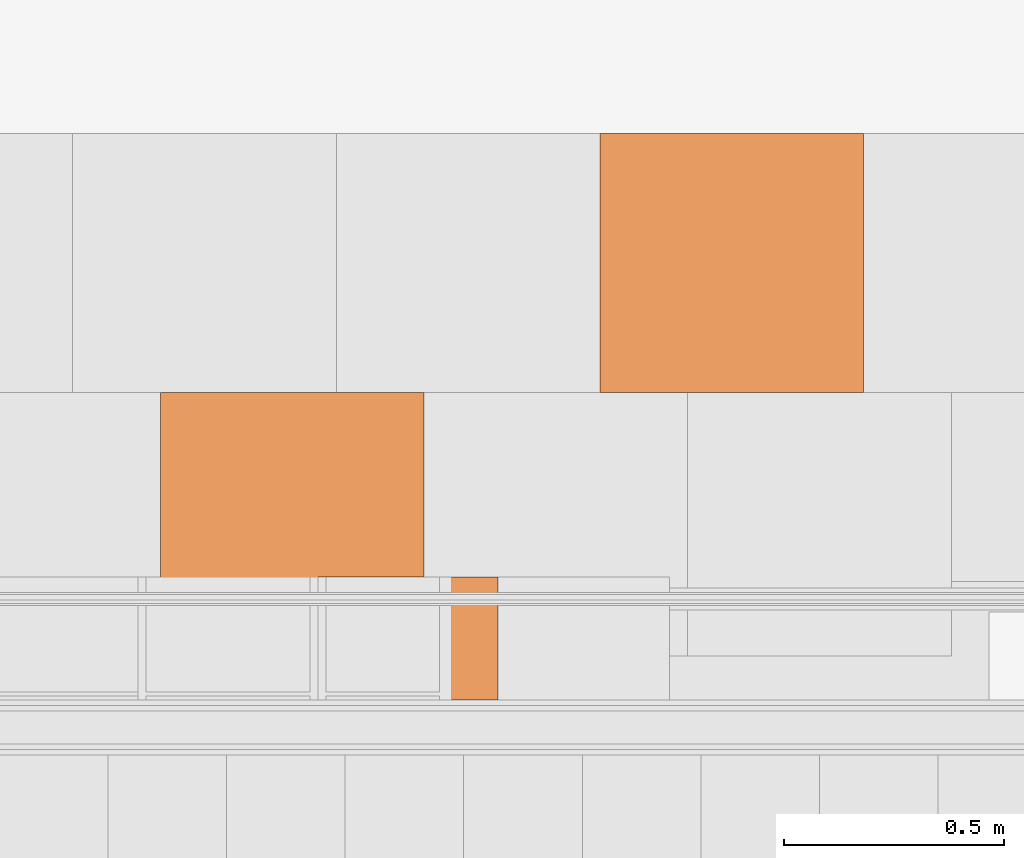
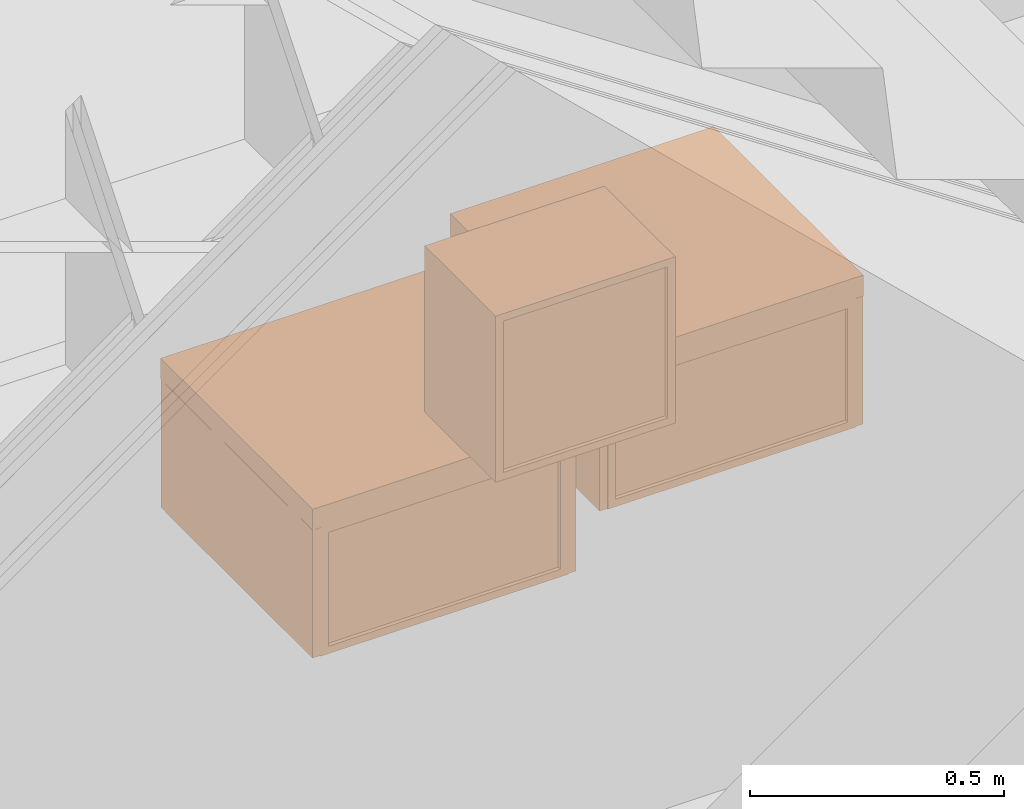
# One storey, part 140 of 165: 3 proxies.
"""IFC2X3 building model written with IfcOpenShell, lengths in millimetres."""

from ifc_helpers import new_model, entity, si_unit, converted_unit, derived_unit, money_unit, direction, frame, origin_with_axes, place, context, subcontext, project, spatial, faceted_brep, source, transform, mapped, type_object, type_shapes, element, save


model = new_model("IFC2X3")

# Units and contexts
model_context = context("Model", 3, precision=0.01, world=origin_with_axes(), true_north=direction((0.0, 1.0)))
body_context = subcontext(model_context, "Body", "Model", "MODEL_VIEW")
ifc_project = project(units=[si_unit("LENGTHUNIT", "METRE", prefix="MILLI"), si_unit("AREAUNIT", "SQUARE_METRE"), si_unit("VOLUMEUNIT", "CUBIC_METRE"), converted_unit("PLANEANGLEUNIT", "DEGREE", entity("IfcPlaneAngleMeasure", 0.0174532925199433), si_unit("PLANEANGLEUNIT", "RADIAN"), dimensions=[0, 0, 0, 0, 0, 0, 0]), money_unit("EUR"), converted_unit("TIMEUNIT", "Year", entity("IfcTimeMeasure", 31556926.0), si_unit("TIMEUNIT", "SECOND"), dimensions=[0, 0, 1, 0, 0, 0, 0]), si_unit("MASSUNIT", "GRAM", prefix="KILO"), si_unit("THERMODYNAMICTEMPERATUREUNIT", "DEGREE_CELSIUS"), si_unit("LUMINOUSINTENSITYUNIT", "LUMEN"), si_unit("ENERGYUNIT", "JOULE", prefix="MEGA"), derived_unit("THERMALCONDUCTANCEUNIT", [(si_unit("POWERUNIT", "WATT"), 1), (si_unit("LENGTHUNIT", "METRE"), -1), (si_unit("THERMODYNAMICTEMPERATUREUNIT", "KELVIN"), -1)]), derived_unit("SPECIFICHEATCAPACITYUNIT", [(si_unit("ENERGYUNIT", "JOULE"), 1), (si_unit("MASSUNIT", "GRAM", prefix="KILO"), -1), (si_unit("THERMODYNAMICTEMPERATUREUNIT", "KELVIN"), -1)]), derived_unit("MASSDENSITYUNIT", [(si_unit("MASSUNIT", "GRAM", prefix="KILO"), 1), (si_unit("VOLUMEUNIT", "CUBIC_METRE"), -1)])], contexts=[model_context])

# Site, building, storey
site_placement = place(None, origin_with_axes())
site = spatial("IfcSite", under=ifc_project, at=site_placement, Name="Site", CompositionType="ELEMENT")
building_placement = place(site_placement, origin_with_axes())
building = spatial("IfcBuilding", under=site, at=building_placement, Name="Naam gebouw", CompositionType="ELEMENT")
storey_placement = place(building_placement, origin_with_axes())
storey = spatial("IfcBuildingStorey", under=building, at=storey_placement, Name="Begane grond", CompositionType="ELEMENT", Elevation=0.0)

# Proxies
building_element_proxy_type = type_object("IfcBuildingElementProxyType", Name="Onderkast recht 26", PredefinedType="NOTDEFINED")
shared_shape_1 = source(origin_with_axes(), body_context, "Body", "Brep", [
    faceted_brep([(0.0, -590.0, 310.0), (0.0, -590.0, 360.0), (-600.0, -590.0, 360.0), (-600.0, -590.0, 310.0), (0.0, 0.0, 310.0), (0.0, 0.0, 360.0), (-600.0, 0.0, 360.0), (-600.0, 0.0, 310.0)], [[[0, 1, 2, 3]], [[4, 5, 1, 0]], [[1, 5, 6, 2]], [[3, 2, 6, 7]], [[0, 3, 7, 4]], [[7, 6, 5, 4]]]),
    faceted_brep([(-558.9999999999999, -572.0, 23.0), (-558.9999999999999, -18.00000000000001, 23.0), (-40.99999999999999, -18.00000000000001, 23.0), (-40.99999999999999, -572.0, 23.0), (-558.9999999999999, -572.0, 33.0), (-558.9999999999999, -18.00000000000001, 33.0), (-40.99999999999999, -18.00000000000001, 33.0), (-40.99999999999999, -572.0, 33.0)], [[[0, 1, 2, 3]], [[0, 4, 5, 1]], [[1, 5, 6, 2]], [[2, 6, 7, 3]], [[3, 7, 4, 0]], [[7, 6, 5, 4]]]),
    faceted_brep([(-61.0, -572.0, 33.0), (-61.0, -18.00000000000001, 33.0), (-40.99999999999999, -18.00000000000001, 33.0), (-40.99999999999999, -572.0, 33.0), (-61.0, -572.0, 286.9999999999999), (-61.0, -18.00000000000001, 286.9999999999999), (-40.99999999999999, -18.00000000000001, 286.9999999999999), (-40.99999999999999, -572.0, 286.9999999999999)], [[[0, 1, 2, 3]], [[0, 4, 5, 1]], [[1, 5, 6, 2]], [[2, 6, 7, 3]], [[3, 7, 4, 0]], [[7, 6, 5, 4]]]),
    faceted_brep([(-558.9999999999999, -572.0, 33.0), (-558.9999999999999, -18.00000000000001, 33.0), (-538.9999999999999, -18.00000000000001, 33.0), (-538.9999999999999, -572.0, 33.0), (-558.9999999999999, -572.0, 286.9999999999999), (-558.9999999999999, -18.00000000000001, 286.9999999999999), (-538.9999999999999, -18.00000000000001, 286.9999999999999), (-538.9999999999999, -572.0, 286.9999999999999)], [[[0, 1, 2, 3]], [[0, 4, 5, 1]], [[1, 5, 6, 2]], [[2, 6, 7, 3]], [[3, 7, 4, 0]], [[7, 6, 5, 4]]]),
    faceted_brep([(-538.9999999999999, -33.00000000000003, 33.0), (-538.9999999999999, -23.00000000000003, 33.0), (-61.0, -23.00000000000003, 33.0), (-61.0, -33.00000000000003, 33.0), (-538.9999999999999, -33.00000000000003, 286.9999999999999), (-538.9999999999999, -23.00000000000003, 286.9999999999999), (-61.0, -23.00000000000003, 286.9999999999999), (-61.0, -33.00000000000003, 286.9999999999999)], [[[0, 1, 2, 3]], [[0, 4, 5, 1]], [[1, 5, 6, 2]], [[2, 6, 7, 3]], [[3, 7, 4, 0]], [[7, 6, 5, 4]]]),
    faceted_brep([(-599.0, -590.0, 1.000000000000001), (-1.000000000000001, -590.0, 1.000000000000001), (-1.000000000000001, -590.0, 309.0), (-599.0, -590.0, 309.0), (-328.190778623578, -590.0, 240.26060429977), (-325.9807621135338, -590.0, 244.9999999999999), (-322.9813332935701, -590.0, 249.2836282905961), (-319.2836282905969, -590.0, 252.9813332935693), (-315.0000000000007, -590.0, 255.9807621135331), (-310.2606042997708, -590.0, 258.1907786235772), (-305.2094453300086, -590.0, 259.5442325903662), (-300.0000000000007, -590.0, 260.0), (-294.7905546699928, -590.0, 259.5442325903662), (-289.7393957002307, -590.0, 258.1907786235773), (-285.0000000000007, -590.0, 255.9807621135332), (-280.7163717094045, -590.0, 252.9813332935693), (-277.0186667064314, -590.0, 249.2836282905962), (-274.0192378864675, -590.0, 245.0), (-271.8092213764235, -590.0, 240.2606042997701), (-270.4557674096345, -590.0, 235.2094453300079), (-270.0000000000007, -590.0, 230.0), (-270.4557674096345, -590.0, 224.7905546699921), (-271.8092213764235, -590.0, 219.7393957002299), (-274.0192378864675, -590.0, 215.0), (-277.0186667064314, -590.0, 210.7163717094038), (-280.7163717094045, -590.0, 207.0186667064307), (-285.0000000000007, -590.0, 204.0192378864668), (-289.7393957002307, -590.0, 201.8092213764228), (-294.7905546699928, -590.0, 200.4557674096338), (-300.0000000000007, -590.0, 200.0), (-305.2094453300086, -590.0, 200.4557674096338), (-310.2606042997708, -590.0, 201.8092213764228), (-315.0000000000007, -590.0, 204.0192378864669), (-319.2836282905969, -590.0, 207.0186667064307), (-322.9813332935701, -590.0, 210.7163717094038), (-325.9807621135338, -590.0, 215.0), (-328.190778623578, -590.0, 219.7393957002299), (-329.5442325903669, -590.0, 224.7905546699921), (-330.0000000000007, -590.0, 230.0), (-329.5442325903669, -590.0, 235.2094453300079), (-599.0, -572.0, 1.000000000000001), (-1.000000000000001, -572.0, 1.000000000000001), (-1.000000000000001, -572.0, 309.0), (-599.0, -572.0, 309.0), (-325.9807621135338, -572.0, 244.9999999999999), (-328.190778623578, -572.0, 240.26060429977), (-322.9813332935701, -572.0, 249.2836282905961), (-319.2836282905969, -572.0, 252.9813332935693), (-315.0000000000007, -572.0, 255.9807621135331), (-310.2606042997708, -572.0, 258.1907786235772), (-305.2094453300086, -572.0, 259.5442325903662), (-300.0000000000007, -572.0, 260.0), (-294.7905546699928, -572.0, 259.5442325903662), (-289.7393957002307, -572.0, 258.1907786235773), (-285.0000000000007, -572.0, 255.9807621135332), (-280.7163717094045, -572.0, 252.9813332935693), (-277.0186667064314, -572.0, 249.2836282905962), (-274.0192378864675, -572.0, 245.0), (-271.8092213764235, -572.0, 240.2606042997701), (-270.4557674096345, -572.0, 235.2094453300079), (-270.0000000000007, -572.0, 230.0), (-270.4557674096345, -572.0, 224.7905546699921), (-271.8092213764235, -572.0, 219.7393957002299), (-274.0192378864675, -572.0, 215.0), (-277.0186667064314, -572.0, 210.7163717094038), (-280.7163717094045, -572.0, 207.0186667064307), (-285.0000000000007, -572.0, 204.0192378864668), (-289.7393957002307, -572.0, 201.8092213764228), (-294.7905546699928, -572.0, 200.4557674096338), (-300.0000000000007, -572.0, 200.0), (-305.2094453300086, -572.0, 200.4557674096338), (-310.2606042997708, -572.0, 201.8092213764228), (-315.0000000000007, -572.0, 204.0192378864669), (-319.2836282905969, -572.0, 207.0186667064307), (-322.9813332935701, -572.0, 210.7163717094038), (-325.9807621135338, -572.0, 215.0), (-328.190778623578, -572.0, 219.7393957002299), (-329.5442325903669, -572.0, 224.7905546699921), (-330.0000000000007, -572.0, 230.0), (-329.5442325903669, -572.0, 235.2094453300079)], [[[0, 1, 2, 3], [4, 5, 6, 7, 8, 9, 10, 11, 12, 13, 14, 15, 16, 17, 18, 19, 20, 21, 22, 23, 24, 25, 26, 27, 28, 29, 30, 31, 32, 33, 34, 35, 36, 37, 38, 39]], [[40, 41, 1, 0]], [[41, 42, 2, 1]], [[42, 43, 3, 2]], [[43, 40, 0, 3]], [[44, 5, 4, 45]], [[46, 6, 5, 44]], [[47, 7, 6, 46]], [[48, 8, 7, 47]], [[49, 9, 8, 48]], [[50, 10, 9, 49]], [[51, 11, 10, 50]], [[52, 12, 11, 51]], [[53, 13, 12, 52]], [[54, 14, 13, 53]], [[55, 15, 14, 54]], [[56, 16, 15, 55]], [[57, 17, 16, 56]], [[58, 18, 17, 57]], [[59, 19, 18, 58]], [[60, 20, 19, 59]], [[61, 21, 20, 60]], [[62, 22, 21, 61]], [[63, 23, 22, 62]], [[64, 24, 23, 63]], [[65, 25, 24, 64]], [[66, 26, 25, 65]], [[67, 27, 26, 66]], [[68, 28, 27, 67]], [[69, 29, 28, 68]], [[70, 30, 29, 69]], [[71, 31, 30, 70]], [[72, 32, 31, 71]], [[73, 33, 32, 72]], [[74, 34, 33, 73]], [[75, 35, 34, 74]], [[76, 36, 35, 75]], [[77, 37, 36, 76]], [[78, 38, 37, 77]], [[79, 39, 38, 78]], [[45, 4, 39, 79]], [[42, 41, 40, 43], [76, 75, 74, 73, 72, 71, 70, 69, 68, 67, 66, 65, 64, 63, 62, 61, 60, 59, 58, 57, 56, 55, 54, 53, 52, 51, 50, 49, 48, 47, 46, 44, 45, 79, 78, 77]]]),
    faceted_brep([(-18.0, -1.0, 1.0), (0.0, -1.0, 1.000000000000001), (0.0, -571.0, 1.000000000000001), (-18.0, -571.0, 1.0), (-18.00000000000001, -1.0, 309.0), (0.0, -1.0, 309.0), (0.0, -571.0, 309.0), (-18.00000000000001, -571.0, 309.0)], [[[0, 1, 2, 3]], [[4, 5, 1, 0]], [[1, 5, 6, 2]], [[3, 2, 6, 7]], [[0, 3, 7, 4]], [[7, 6, 5, 4]]]),
    faceted_brep([(-582.0, -571.0, 1.0), (-600.0, -571.0, 1.000000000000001), (-600.0, -1.000000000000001, 1.000000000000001), (-582.0, -1.000000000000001, 1.0), (-582.0, -571.0, 309.0), (-600.0, -571.0, 309.0), (-600.0, -1.000000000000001, 309.0), (-582.0, -1.000000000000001, 309.0)], [[[0, 1, 2, 3]], [[4, 5, 1, 0]], [[1, 5, 6, 2]], [[3, 2, 6, 7]], [[0, 3, 7, 4]], [[7, 6, 5, 4]]]),
    faceted_brep([(-36.0, -572.0, 0.0), (-36.0, -572.0, 18.0), (-564.0, -572.0, 18.0), (-564.0, -572.0, 0.0), (-36.0, 0.0, 0.0), (-36.0, 0.0, 18.0), (-564.0, 0.0, 18.0), (-564.0, 0.0, 0.0)], [[[0, 1, 2, 3]], [[4, 5, 1, 0]], [[1, 5, 6, 2]], [[3, 2, 6, 7]], [[0, 3, 7, 4]], [[7, 6, 5, 4]]]),
    faceted_brep([(-36.0, -572.0, 292.0), (-564.0, -572.0, 292.0), (-564.0, -512.0, 292.0), (-36.0, -512.0, 292.0), (-36.0, -572.0, 310.0), (-564.0, -572.0, 310.0), (-564.0, -512.0, 310.0), (-36.0, -512.0, 310.0)], [[[0, 1, 2, 3]], [[4, 5, 1, 0]], [[1, 5, 6, 2]], [[3, 2, 6, 7]], [[0, 3, 7, 4]], [[7, 6, 5, 4]]]),
    faceted_brep([(-564.0, 0.0, 292.0), (-36.0, 0.0, 292.0), (-36.0, -60.0, 292.0), (-564.0, -60.0, 292.0), (-564.0, 0.0, 310.0), (-36.0, 0.0, 310.0), (-36.0, -60.0, 310.0), (-564.0, -60.0, 310.0)], [[[0, 1, 2, 3]], [[4, 5, 1, 0]], [[1, 5, 6, 2]], [[3, 2, 6, 7]], [[0, 3, 7, 4]], [[7, 6, 5, 4]]]),
    faceted_brep([(-18.0, 0.0, 0.0), (-18.0, 0.0, 310.0), (-18.0, -572.0, 310.0), (-18.0, -572.0, 0.0), (-36.0, 0.0, 0.0), (-36.0, 0.0, 310.0), (-36.0, -572.0, 310.0), (-36.0, -572.0, 0.0)], [[[0, 1, 2, 3]], [[4, 5, 1, 0]], [[1, 5, 6, 2]], [[3, 2, 6, 7]], [[0, 3, 7, 4]], [[7, 6, 5, 4]]]),
    faceted_brep([(-582.0, -572.0, 0.0), (-582.0, -572.0, 310.0), (-582.0, 0.0, 310.0), (-582.0, 0.0, 0.0), (-564.0, -572.0, 0.0), (-564.0, -572.0, 310.0), (-564.0, 0.0, 310.0), (-564.0, 0.0, 0.0)], [[[0, 1, 2, 3]], [[4, 5, 1, 0]], [[1, 5, 6, 2]], [[3, 2, 6, 7]], [[0, 3, 7, 4]], [[7, 6, 5, 4]]]),
    faceted_brep([(-564.0, -9.0, 18.0), (-564.0, -9.0, 292.0000000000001), (-36.00000000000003, -9.0, 292.0000000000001), (-36.00000000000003, -9.0, 18.0), (-564.0, -18.0, 18.0), (-564.0, -18.0, 292.0000000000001), (-36.00000000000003, -18.0, 292.0000000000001), (-36.00000000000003, -18.0, 18.0)], [[[0, 1, 2, 3]], [[4, 5, 1, 0]], [[1, 5, 6, 2]], [[3, 2, 6, 7]], [[0, 3, 7, 4]], [[7, 6, 5, 4]]]),
])
proxy_1_placement = place(storey_placement, frame((16400.00001687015, 6430.000292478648, 0.0), z_axis=(0.0, 0.0, 1.0), x_axis=(-1.0, 0.0, 0.0)))
element("IfcBuildingElementProxy", 1, at=proxy_1_placement, inside=storey, type_object=building_element_proxy_type, Name="_Leeg", context=body_context, shape_type="MappedRepresentation", body=[
    mapped(shared_shape_1, transform((0.0, 0.0, 0.0))),
])
shared_shape_2 = source(origin_with_axes(), body_context, "Body", "Brep", [
    faceted_brep([(0.0, -600.0, 310.0), (600.0, -600.0, 310.0), (600.0, -600.0, 360.0), (0.0, -600.0, 360.0), (0.0, 0.0, 310.0), (600.0, 0.0, 310.0), (600.0, 0.0, 360.0), (0.0, 0.0, 360.0)], [[[0, 1, 2, 3]], [[0, 4, 5, 1]], [[1, 5, 6, 2]], [[3, 2, 6, 7]], [[4, 0, 3, 7]], [[5, 4, 7, 6]]]),
    faceted_brep([(558.9999999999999, -582.0, 23.0), (40.99999999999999, -582.0, 23.0), (40.99999999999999, -18.00000000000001, 23.0), (558.9999999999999, -18.00000000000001, 23.0), (558.9999999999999, -582.0, 33.0), (40.99999999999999, -582.0, 33.0), (40.99999999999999, -18.00000000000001, 33.0), (558.9999999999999, -18.00000000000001, 33.0)], [[[0, 1, 2, 3]], [[1, 0, 4, 5]], [[2, 1, 5, 6]], [[3, 2, 6, 7]], [[0, 3, 7, 4]], [[5, 4, 7, 6]]]),
    faceted_brep([(61.0, -582.0, 33.0), (40.99999999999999, -582.0, 33.0), (40.99999999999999, -18.00000000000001, 33.0), (61.0, -18.00000000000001, 33.0), (61.0, -582.0, 286.9999999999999), (40.99999999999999, -582.0, 286.9999999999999), (40.99999999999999, -18.00000000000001, 286.9999999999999), (61.0, -18.00000000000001, 286.9999999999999)], [[[0, 1, 2, 3]], [[1, 0, 4, 5]], [[2, 1, 5, 6]], [[3, 2, 6, 7]], [[0, 3, 7, 4]], [[5, 4, 7, 6]]]),
    faceted_brep([(558.9999999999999, -582.0, 33.0), (538.9999999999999, -582.0, 33.0), (538.9999999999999, -18.00000000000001, 33.0), (558.9999999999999, -18.00000000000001, 33.0), (558.9999999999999, -582.0, 286.9999999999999), (538.9999999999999, -582.0, 286.9999999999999), (538.9999999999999, -18.00000000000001, 286.9999999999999), (558.9999999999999, -18.00000000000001, 286.9999999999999)], [[[0, 1, 2, 3]], [[1, 0, 4, 5]], [[2, 1, 5, 6]], [[3, 2, 6, 7]], [[0, 3, 7, 4]], [[5, 4, 7, 6]]]),
    faceted_brep([(538.9999999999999, -33.00000000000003, 33.0), (61.0, -33.00000000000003, 33.0), (61.0, -23.00000000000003, 33.0), (538.9999999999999, -23.00000000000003, 33.0), (538.9999999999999, -33.00000000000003, 286.9999999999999), (61.0, -33.00000000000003, 286.9999999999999), (61.0, -23.00000000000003, 286.9999999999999), (538.9999999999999, -23.00000000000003, 286.9999999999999)], [[[0, 1, 2, 3]], [[1, 0, 4, 5]], [[2, 1, 5, 6]], [[3, 2, 6, 7]], [[0, 3, 7, 4]], [[5, 4, 7, 6]]]),
    faceted_brep([(599.0, -600.0, 1.000000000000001), (599.0, -600.0, 309.0), (1.000000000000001, -600.0, 309.0), (1.000000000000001, -600.0, 1.000000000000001), (328.1907786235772, -600.0, 240.26060429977), (329.5442325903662, -600.0, 235.2094453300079), (329.9999999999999, -600.0, 230.0), (329.5442325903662, -600.0, 224.7905546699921), (328.1907786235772, -600.0, 219.7393957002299), (325.9807621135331, -600.0, 215.0), (322.9813332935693, -600.0, 210.7163717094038), (319.2836282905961, -600.0, 207.0186667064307), (314.9999999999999, -600.0, 204.0192378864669), (310.26060429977, -600.0, 201.8092213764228), (305.2094453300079, -600.0, 200.4557674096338), (300.0, -600.0, 200.0), (294.7905546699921, -600.0, 200.4557674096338), (289.7393957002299, -600.0, 201.8092213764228), (285.0, -600.0, 204.0192378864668), (280.7163717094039, -600.0, 207.0186667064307), (277.0186667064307, -600.0, 210.7163717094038), (274.0192378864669, -600.0, 215.0), (271.8092213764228, -600.0, 219.7393957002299), (270.4557674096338, -600.0, 224.7905546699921), (270.0, -600.0, 230.0), (270.4557674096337, -600.0, 235.2094453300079), (271.8092213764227, -600.0, 240.2606042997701), (274.0192378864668, -600.0, 245.0), (277.0186667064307, -600.0, 249.2836282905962), (280.7163717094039, -600.0, 252.9813332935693), (285.0, -600.0, 255.9807621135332), (289.7393957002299, -600.0, 258.1907786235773), (294.7905546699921, -600.0, 259.5442325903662), (300.0, -600.0, 260.0), (305.2094453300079, -600.0, 259.5442325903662), (310.26060429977, -600.0, 258.1907786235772), (314.9999999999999, -600.0, 255.9807621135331), (319.2836282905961, -600.0, 252.9813332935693), (322.9813332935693, -600.0, 249.2836282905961), (325.9807621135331, -600.0, 244.9999999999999), (599.0, -582.0, 309.0), (599.0, -582.0, 1.000000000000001), (1.000000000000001, -582.0, 309.0), (1.000000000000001, -582.0, 1.000000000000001), (328.1907786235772, -582.0, 240.26060429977), (329.5442325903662, -582.0, 235.2094453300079), (329.9999999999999, -582.0, 230.0), (329.5442325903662, -582.0, 224.7905546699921), (328.1907786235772, -582.0, 219.7393957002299), (325.9807621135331, -582.0, 215.0), (322.9813332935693, -582.0, 210.7163717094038), (319.2836282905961, -582.0, 207.0186667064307), (314.9999999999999, -582.0, 204.0192378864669), (310.26060429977, -582.0, 201.8092213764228), (305.2094453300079, -582.0, 200.4557674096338), (300.0, -582.0, 200.0), (294.7905546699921, -582.0, 200.4557674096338), (289.7393957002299, -582.0, 201.8092213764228), (285.0, -582.0, 204.0192378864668), (280.7163717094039, -582.0, 207.0186667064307), (277.0186667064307, -582.0, 210.7163717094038), (274.0192378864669, -582.0, 215.0), (271.8092213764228, -582.0, 219.7393957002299), (270.4557674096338, -582.0, 224.7905546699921), (270.0, -582.0, 230.0), (270.4557674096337, -582.0, 235.2094453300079), (271.8092213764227, -582.0, 240.2606042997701), (274.0192378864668, -582.0, 245.0), (277.0186667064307, -582.0, 249.2836282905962), (280.7163717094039, -582.0, 252.9813332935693), (285.0, -582.0, 255.9807621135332), (289.7393957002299, -582.0, 258.1907786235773), (294.7905546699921, -582.0, 259.5442325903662), (300.0, -582.0, 260.0), (305.2094453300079, -582.0, 259.5442325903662), (310.26060429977, -582.0, 258.1907786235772), (314.9999999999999, -582.0, 255.9807621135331), (319.2836282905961, -582.0, 252.9813332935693), (322.9813332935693, -582.0, 249.2836282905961), (325.9807621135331, -582.0, 244.9999999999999)], [[[0, 1, 2, 3], [4, 5, 6, 7, 8, 9, 10, 11, 12, 13, 14, 15, 16, 17, 18, 19, 20, 21, 22, 23, 24, 25, 26, 27, 28, 29, 30, 31, 32, 33, 34, 35, 36, 37, 38, 39]], [[40, 1, 0, 41]], [[42, 2, 1, 40]], [[43, 3, 2, 42]], [[41, 0, 3, 43]], [[44, 45, 5, 4]], [[45, 46, 6, 5]], [[46, 47, 7, 6]], [[47, 48, 8, 7]], [[48, 49, 9, 8]], [[49, 50, 10, 9]], [[50, 51, 11, 10]], [[51, 52, 12, 11]], [[52, 53, 13, 12]], [[53, 54, 14, 13]], [[54, 55, 15, 14]], [[55, 56, 16, 15]], [[56, 57, 17, 16]], [[57, 58, 18, 17]], [[58, 59, 19, 18]], [[59, 60, 20, 19]], [[60, 61, 21, 20]], [[61, 62, 22, 21]], [[62, 63, 23, 22]], [[63, 64, 24, 23]], [[64, 65, 25, 24]], [[65, 66, 26, 25]], [[66, 67, 27, 26]], [[67, 68, 28, 27]], [[68, 69, 29, 28]], [[69, 70, 30, 29]], [[70, 71, 31, 30]], [[71, 72, 32, 31]], [[72, 73, 33, 32]], [[73, 74, 34, 33]], [[74, 75, 35, 34]], [[75, 76, 36, 35]], [[76, 77, 37, 36]], [[77, 78, 38, 37]], [[78, 79, 39, 38]], [[79, 44, 4, 39]], [[42, 40, 41, 43], [48, 47, 46, 45, 44, 79, 78, 77, 76, 75, 74, 73, 72, 71, 70, 69, 68, 67, 66, 65, 64, 63, 62, 61, 60, 59, 58, 57, 56, 55, 54, 53, 52, 51, 50, 49]]]),
    faceted_brep([(18.0, -1.0, 1.0), (18.0, -581.0, 1.0), (0.0, -581.0, 1.000000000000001), (0.0, -1.0, 1.000000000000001), (18.00000000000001, -1.0, 309.0), (18.00000000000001, -581.0, 309.0), (0.0, -581.0, 309.0), (0.0, -1.0, 309.0)], [[[0, 1, 2, 3]], [[0, 4, 5, 1]], [[1, 5, 6, 2]], [[3, 2, 6, 7]], [[4, 0, 3, 7]], [[5, 4, 7, 6]]]),
    faceted_brep([(582.0, -581.0, 1.0), (582.0, -1.000000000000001, 1.0), (600.0, -1.000000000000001, 1.000000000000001), (600.0, -581.0, 1.000000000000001), (582.0, -581.0, 309.0), (582.0, -1.000000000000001, 309.0), (600.0, -1.000000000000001, 309.0), (600.0, -581.0, 309.0)], [[[0, 1, 2, 3]], [[0, 4, 5, 1]], [[1, 5, 6, 2]], [[3, 2, 6, 7]], [[4, 0, 3, 7]], [[5, 4, 7, 6]]]),
    faceted_brep([(36.0, -582.0, 0.0), (564.0, -582.0, 0.0), (564.0, -582.0, 18.0), (36.0, -582.0, 18.0), (36.0, 0.0, 0.0), (564.0, 0.0, 0.0), (564.0, 0.0, 18.0), (36.0, 0.0, 18.0)], [[[0, 1, 2, 3]], [[0, 4, 5, 1]], [[1, 5, 6, 2]], [[3, 2, 6, 7]], [[4, 0, 3, 7]], [[5, 4, 7, 6]]]),
    faceted_brep([(36.0, -582.0, 292.0), (36.0, -522.0, 292.0), (564.0, -522.0, 292.0), (564.0, -582.0, 292.0), (36.0, -582.0, 310.0), (36.0, -522.0, 310.0), (564.0, -522.0, 310.0), (564.0, -582.0, 310.0)], [[[0, 1, 2, 3]], [[0, 4, 5, 1]], [[1, 5, 6, 2]], [[3, 2, 6, 7]], [[4, 0, 3, 7]], [[5, 4, 7, 6]]]),
    faceted_brep([(564.0, 0.0, 292.0), (564.0, -60.0, 292.0), (36.0, -60.0, 292.0), (36.0, 0.0, 292.0), (564.0, 0.0, 310.0), (564.0, -60.0, 310.0), (36.0, -60.0, 310.0), (36.0, 0.0, 310.0)], [[[0, 1, 2, 3]], [[0, 4, 5, 1]], [[1, 5, 6, 2]], [[3, 2, 6, 7]], [[4, 0, 3, 7]], [[5, 4, 7, 6]]]),
    faceted_brep([(18.0, 0.0, 0.0), (18.0, -582.0, 0.0), (18.0, -582.0, 310.0), (18.0, 0.0, 310.0), (36.0, 0.0, 0.0), (36.0, -582.0, 0.0), (36.0, -582.0, 310.0), (36.0, 0.0, 310.0)], [[[0, 1, 2, 3]], [[0, 4, 5, 1]], [[1, 5, 6, 2]], [[3, 2, 6, 7]], [[4, 0, 3, 7]], [[5, 4, 7, 6]]]),
    faceted_brep([(582.0, -582.0, 0.0), (582.0, 0.0, 0.0), (582.0, 0.0, 310.0), (582.0, -582.0, 310.0), (564.0, -582.0, 0.0), (564.0, 0.0, 0.0), (564.0, 0.0, 310.0), (564.0, -582.0, 310.0)], [[[0, 1, 2, 3]], [[0, 4, 5, 1]], [[1, 5, 6, 2]], [[3, 2, 6, 7]], [[4, 0, 3, 7]], [[5, 4, 7, 6]]]),
    faceted_brep([(564.0, -9.0, 18.0), (36.00000000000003, -9.0, 18.0), (36.00000000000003, -9.0, 292.0000000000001), (564.0, -9.0, 292.0000000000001), (564.0, -18.0, 18.0), (36.00000000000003, -18.0, 18.0), (36.00000000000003, -18.0, 292.0000000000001), (564.0, -18.0, 292.0000000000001)], [[[0, 1, 2, 3]], [[0, 4, 5, 1]], [[1, 5, 6, 2]], [[3, 2, 6, 7]], [[4, 0, 3, 7]], [[5, 4, 7, 6]]]),
])
proxy_2_placement = place(storey_placement, frame((16000.00001687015, 5830.000239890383, 359.9999999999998), z_axis=(0.0, 0.0, 1.0), x_axis=(-1.0, 0.0, 0.0)))
element("IfcBuildingElementProxy", 2, at=proxy_2_placement, inside=storey, type_object=building_element_proxy_type, Name="_Leeg", context=body_context, shape_type="MappedRepresentation", body=[
    mapped(shared_shape_2, transform((0.0, 0.0, 0.0))),
])
shared_shape_3 = source(origin_with_axes(), body_context, "Body", "Brep", [
    faceted_brep([(18.0, -280.0000000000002, 0.0), (391.0000000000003, -280.0000000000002, 0.0), (391.0000000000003, -280.0000000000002, 18.0), (18.0, -280.0000000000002, 18.0), (18.0, 0.0, 0.0), (391.0000000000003, 0.0, 0.0), (391.0000000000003, 0.0, 18.0), (18.0, 0.0, 18.0)], [[[0, 1, 2, 3]], [[0, 4, 5, 1]], [[1, 5, 6, 2]], [[3, 2, 6, 7]], [[4, 0, 3, 7]], [[5, 4, 7, 6]]]),
    faceted_brep([(18.0, -280.0000000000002, 381.9999999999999), (391.0000000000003, -280.0000000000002, 381.9999999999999), (391.0000000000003, -280.0000000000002, 399.9999999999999), (18.0, -280.0000000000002, 399.9999999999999), (18.0, 0.0, 381.9999999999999), (391.0000000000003, 0.0, 381.9999999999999), (391.0000000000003, 0.0, 399.9999999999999), (18.0, 0.0, 399.9999999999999)], [[[0, 1, 2, 3]], [[0, 4, 5, 1]], [[1, 5, 6, 2]], [[3, 2, 6, 7]], [[4, 0, 3, 7]], [[5, 4, 7, 6]]]),
    faceted_brep([(0.0, 0.0, 0.0), (0.0, -280.0000000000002, 0.0), (0.0, -280.0000000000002, 399.9999999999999), (0.0, 0.0, 399.9999999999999), (18.0, 0.0, 0.0), (18.0, -280.0000000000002, 0.0), (18.0, -280.0000000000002, 399.9999999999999), (18.0, 0.0, 399.9999999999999)], [[[0, 1, 2, 3]], [[0, 4, 5, 1]], [[1, 5, 6, 2]], [[3, 2, 6, 7]], [[4, 0, 3, 7]], [[5, 4, 7, 6]]]),
    faceted_brep([(409.0000000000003, -280.0000000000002, 0.0), (409.0000000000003, 0.0, 0.0), (409.0000000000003, 0.0, 399.9999999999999), (409.0000000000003, -280.0000000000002, 399.9999999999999), (391.0000000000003, -280.0000000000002, 0.0), (391.0000000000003, 0.0, 0.0), (391.0000000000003, 0.0, 399.9999999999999), (391.0000000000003, -280.0000000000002, 399.9999999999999)], [[[0, 1, 2, 3]], [[0, 4, 5, 1]], [[1, 5, 6, 2]], [[3, 2, 6, 7]], [[4, 0, 3, 7]], [[5, 4, 7, 6]]]),
    faceted_brep([(391.0000000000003, -9.0, 18.0), (18.00000000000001, -9.0, 18.0), (18.00000000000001, -9.0, 381.9999999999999), (391.0000000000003, -9.0, 381.9999999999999), (391.0000000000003, -18.0, 18.0), (18.00000000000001, -18.0, 18.0), (18.00000000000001, -18.0, 381.9999999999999), (391.0000000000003, -18.0, 381.9999999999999)], [[[0, 1, 2, 3]], [[0, 4, 5, 1]], [[1, 5, 6, 2]], [[3, 2, 6, 7]], [[4, 0, 3, 7]], [[5, 4, 7, 6]]]),
])
type_shapes(building_element_proxy_type, [shared_shape_1, shared_shape_2, shared_shape_3])
proxy_3_placement = place(storey_placement, frame((16167.57015574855, 5729.997304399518, 719.9999999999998), z_axis=(0.0, 0.0, 1.0), x_axis=(-1.0, 0.0, 0.0)))
element("IfcBuildingElementProxy", 3, at=proxy_3_placement, inside=storey, type_object=building_element_proxy_type, Name="_Leeg", context=body_context, shape_type="MappedRepresentation", body=[
    mapped(shared_shape_3, transform((0.0, 0.0, 0.0))),
])

save(model, "model.ifc")
